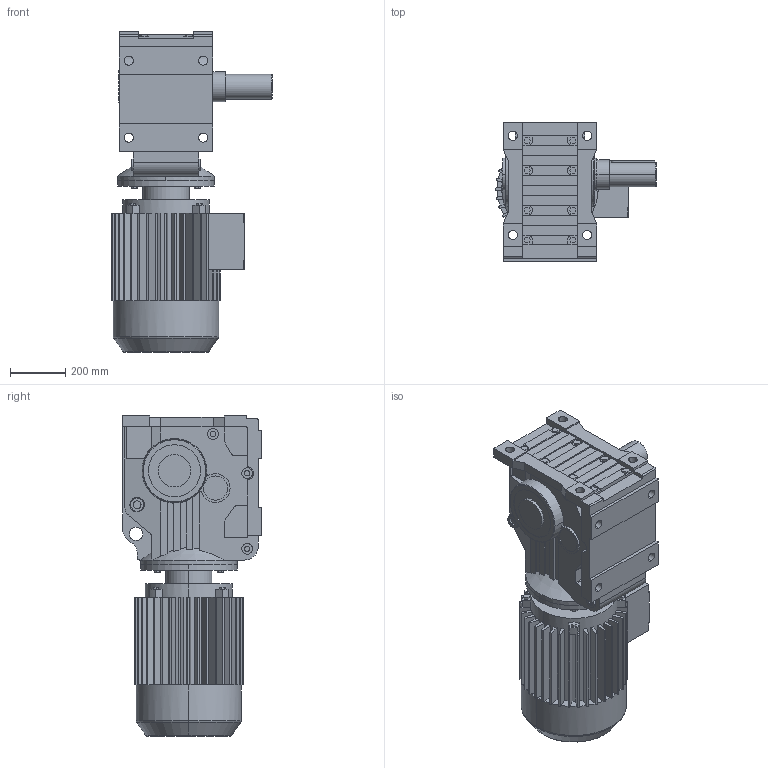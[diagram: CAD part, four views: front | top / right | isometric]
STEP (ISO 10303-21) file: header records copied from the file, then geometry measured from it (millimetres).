
FILE_DESCRIPTION(('Open CASCADE Model'),'2;1');
FILE_NAME('Open CASCADE Shape Model','2021-05-29T14:41:44',('Author'),( 'Open CASCADE'),'Open CASCADE STEP processor 6.3','Open CASCADE 6.3' ,'Unknown');
FILE_SCHEMA(('AUTOMOTIVE_DESIGN_CC2 { 1 2 10303 214 -1 1 5 4 }'));
Length unit declared in the file: millimetre
Products named in the file (4): 1_K107DV200-A; K37‵157_107.step; 萇儂_350-DV200-623-779-394-285.step; す瑩妗陑粣K_107.step
Assembly tree (3 placements, depth 2):
  1_K107DV200-A
    K37‵157_107.step
    萇儂_350-DV200-623-779-394-285.step
    す瑩妗陑粣K_107.step
Bounding box: 583 x 503 x 1164 mm (x, y, z)
Volume: 126071943.8 mm3; surface area: 3566211.4 mm2
Topology: 3 solids, 3 shells, 842 faces, 2218 edges, 1439 vertices
Faces by surface type: plane 587, cylinder 231, cone 16, torus 8
Entity records: 58026 total; most frequent: CARTESIAN_POINT 15857, DIRECTION 7274, ORIENTED_EDGE 4432, PCURVE 4432, DEFINITIONAL_REPRESENTATION 4432, LINE 3960, VECTOR 3960, EDGE_CURVE 2216
